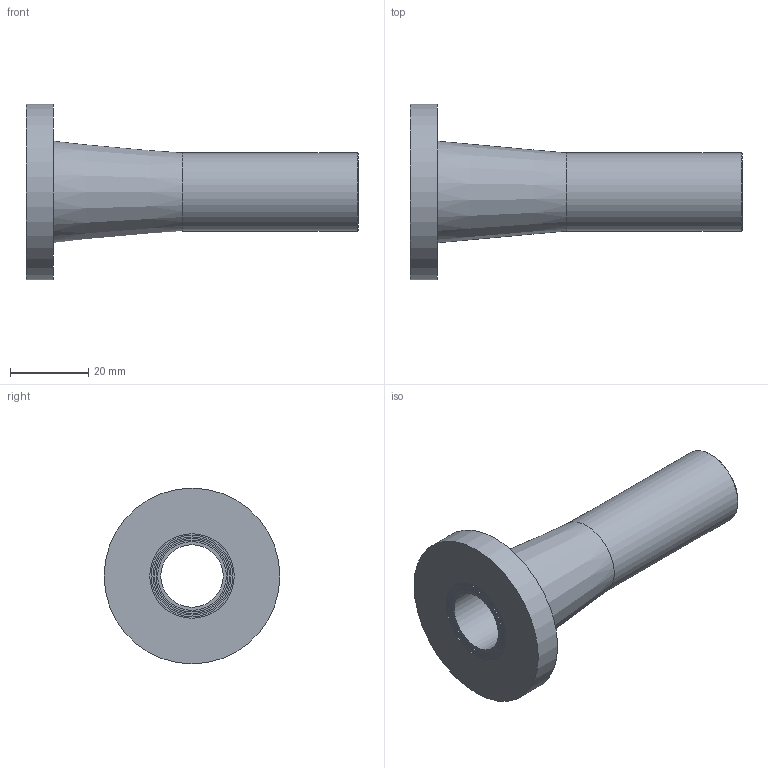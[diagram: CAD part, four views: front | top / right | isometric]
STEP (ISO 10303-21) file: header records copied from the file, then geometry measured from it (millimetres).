
FILE_DESCRIPTION(/* description */ ('Stub Flange 20'),/* implementation_level */ '2;1');
FILE_NAME(/* name */ 'C:\Dropbox\KIMPROJECTS-Inventor\99-16-3568-Processing\ElectroFusion Fittings\31.03.19\490207\490207020.ipt.stp',/* time_stamp */ '2019-03-31T18:57:36+03:00',/* author */ ('Кирилл'),/* organization */ (''),/* preprocessor_version */ 'ST-DEVELOPER v15.6',/* originating_system */ 'Autodesk Inventor 2015',/* authorisation */ '');
FILE_SCHEMA (('AUTOMOTIVE_DESIGN { 1 0 10303 214 3 1 1 }'));
Length unit declared in the file: millimetre
Products named in the file (1): 490207020
Bounding box: 85 x 45 x 45 mm (x, y, z)
Volume: 21952.3 mm3; surface area: 13112.3 mm2
Topology: 1 solids, 1 shells, 20 faces, 31 edges, 20 vertices
Faces by surface type: cylinder 9, plane 9, cone 2
Full cylindrical faces by diameter (mm): 16 x1, 17.6 x1, 18.4 x1, 19.2 x1, 20 x2, 20.8 x1, 21.6 x1, 45 x1
Entity records: 432 total; most frequent: DIRECTION 82, CARTESIAN_POINT 61, AXIS2_PLACEMENT_3D 41, EDGE_LOOP 40, ORIENTED_EDGE 40, FACE_BOUND 20, FACE_OUTER_BOUND 20, CIRCLE 20
